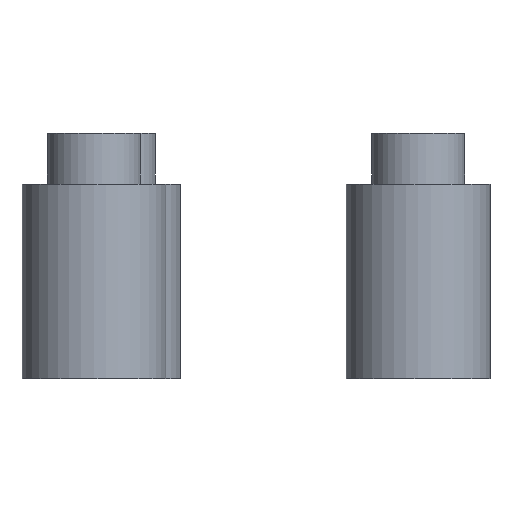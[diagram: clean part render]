
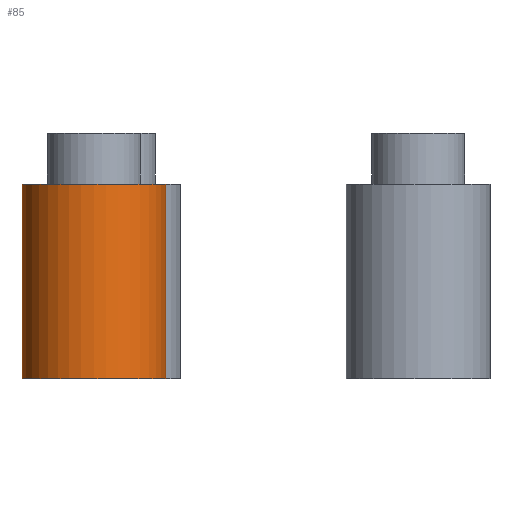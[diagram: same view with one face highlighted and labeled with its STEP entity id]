
A CAD part, left-side view. The second image highlights one B-rep face of the part: STEP entity #85.
In plain terms, the highlighted cylindrical face has radius 4.25 mm (diameter 8.5 mm), a full revolution.
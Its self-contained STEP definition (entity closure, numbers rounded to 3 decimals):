
#85=ADVANCED_FACE('',(#121,#123),#125,.T.);
#121=FACE_OUTER_BOUND('',#122,.T.);
#122=EDGE_LOOP('',(#271));
#123=FACE_OUTER_BOUND('',#124,.T.);
#124=EDGE_LOOP('',(#272));
#125=CYLINDRICAL_SURFACE('',#126,4.25);
#126=AXIS2_PLACEMENT_3D('',#127,#128,#129);
#127=CARTESIAN_POINT('',(-9.142,9.885,0.));
#128=DIRECTION('',(0.,0.,1.));
#129=DIRECTION('',(-1.,0.,0.));
#271=ORIENTED_EDGE('',*,*,#299,.F.);
#272=ORIENTED_EDGE('',*,*,#302,.T.);
#299=EDGE_CURVE('',#315,#315,#316,.T.);
#302=EDGE_CURVE('',#321,#321,#322,.T.);
#315=VERTEX_POINT('',#347);
#316=CIRCLE('',#348,4.25);
#321=VERTEX_POINT('',#362);
#322=CIRCLE('',#363,4.25);
#347=CARTESIAN_POINT('',(-13.392,9.885,11.5));
#348=AXIS2_PLACEMENT_3D('',#349,#350,#351);
#349=CARTESIAN_POINT('',(-9.142,9.885,11.5));
#350=DIRECTION('',(0.,0.,1.));
#351=DIRECTION('',(-1.,0.,0.));
#362=CARTESIAN_POINT('',(-13.392,9.885,0.));
#363=AXIS2_PLACEMENT_3D('',#364,#365,#366);
#364=CARTESIAN_POINT('',(-9.142,9.885,0.));
#365=DIRECTION('',(0.,0.,1.));
#366=DIRECTION('',(-1.,0.,0.));
